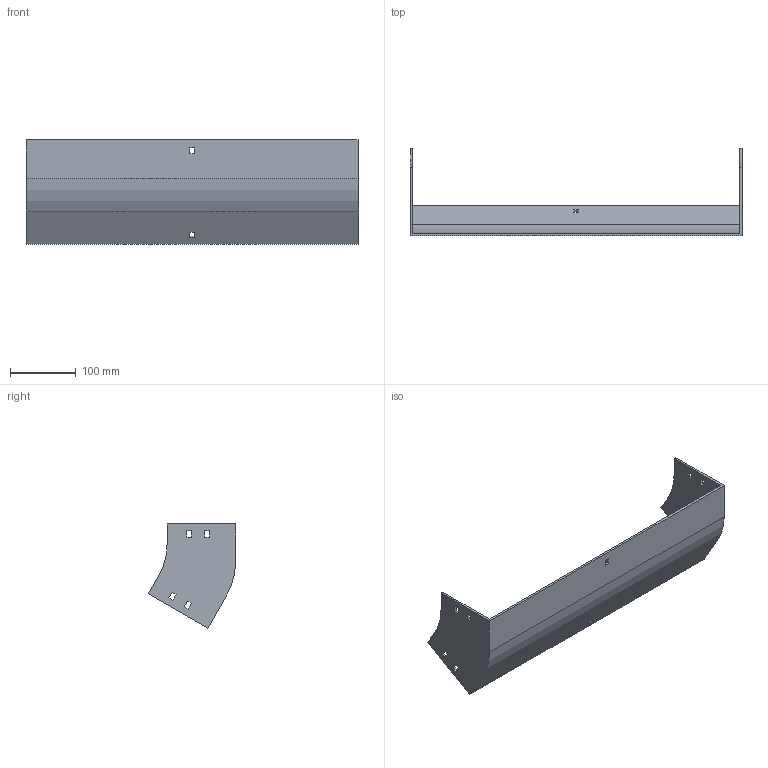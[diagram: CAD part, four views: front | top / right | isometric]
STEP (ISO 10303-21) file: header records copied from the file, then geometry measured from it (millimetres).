
FILE_DESCRIPTION (( 'STEP AP214' ), '1' );
FILE_NAME ('32F1D500.step', '2025-02-21T12:59:38', ( '' ), ( '' ), 'SwSTEP 2.0', 'SolidWorks 2023', '' );
FILE_SCHEMA (( 'AUTOMOTIVE_DESIGN' ));
Length unit declared in the file: millimetre
Products named in the file (1): 32F1D500
Bounding box: 504 x 132.4 x 157.98 mm (x, y, z)
Volume: 391415.3 mm3; surface area: 230562.8 mm2
Topology: 1 solids, 1 shells, 58 faces, 168 edges, 112 vertices
Faces by surface type: plane 54, cylinder 4
Entity records: 1943 total; most frequent: CARTESIAN_POINT 339, ORIENTED_EDGE 336, DIRECTION 294, EDGE_CURVE 168, LINE 160, VECTOR 160, VERTEX_POINT 112, EDGE_LOOP 78
